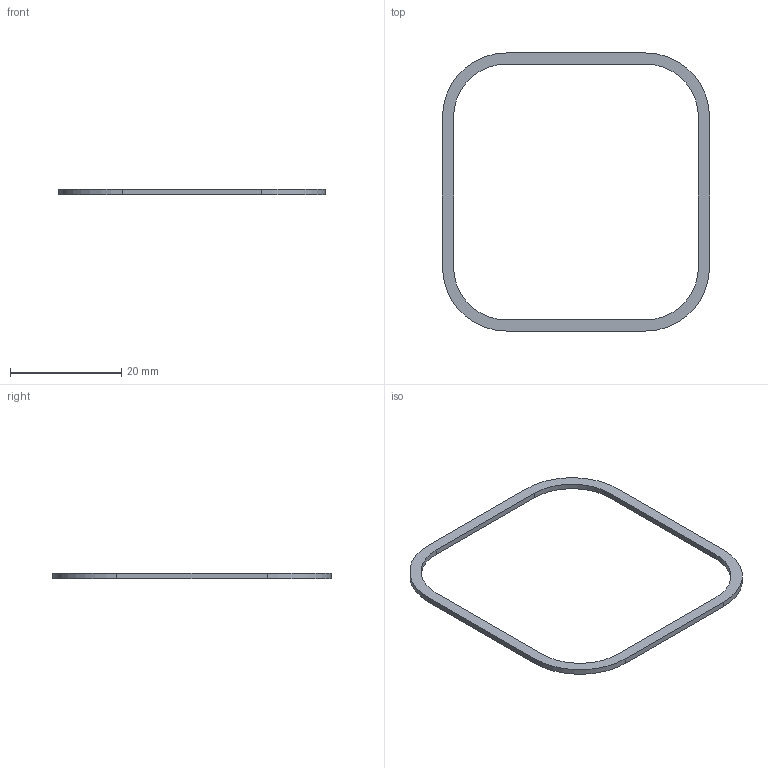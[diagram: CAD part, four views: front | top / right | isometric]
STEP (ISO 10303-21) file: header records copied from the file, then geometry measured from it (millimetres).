
FILE_DESCRIPTION(/* description */ (''),/* implementation_level */ '2;1');
FILE_NAME(/* name */ '09_Front_Shell_Body2.step',/* time_stamp */ '2026-09-20T10:25:49-07:00',/* author */ (''),/* organization */ (''),/* preprocessor_version */ 'ST-DEVELOPER v20.2',/* originating_system */ 'Autodesk Translation Framework v15.15.0.0',/* authorisation */ '');
FILE_SCHEMA (('AUTOMOTIVE_DESIGN { 1 0 10303 214 3 1 1 }'));
Length unit declared in the file: millimetre
Products named in the file (1): 2026-09-20-10-25-49-034
Bounding box: 48 x 50 x 1 mm (x, y, z)
Volume: 339.9 mm3; surface area: 1019.8 mm2
Topology: 1 solids, 1 shells, 18 faces, 48 edges, 32 vertices
Faces by surface type: plane 10, cylinder 8
Entity records: 605 total; most frequent: DIRECTION 102, CARTESIAN_POINT 99, ORIENTED_EDGE 96, EDGE_CURVE 48, AXIS2_PLACEMENT_3D 35, LINE 32, VECTOR 32, VERTEX_POINT 32
